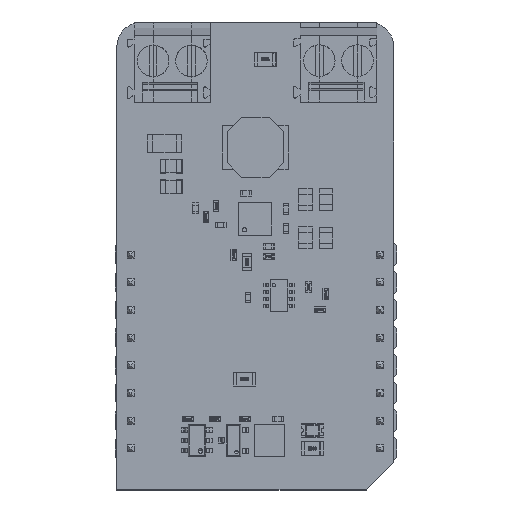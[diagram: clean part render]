
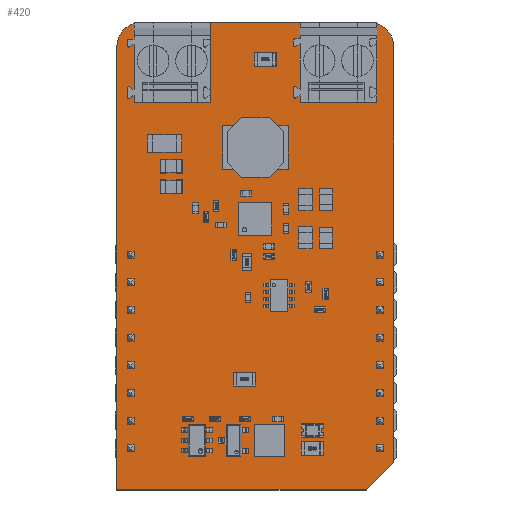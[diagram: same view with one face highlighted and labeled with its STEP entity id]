
A CAD part, top view. The second image highlights one B-rep face of the part: STEP entity #420.
In plain terms, the highlighted planar face has unit normal (0, 0, 1).
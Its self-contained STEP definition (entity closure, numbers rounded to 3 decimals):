
#191 = VERTEX_POINT('',#192);
#192 = CARTESIAN_POINT('',(-1.27,-3.81,0.));
#198 = EDGE_CURVE('',#191,#199,#201,.T.);
#199 = VERTEX_POINT('',#200);
#200 = CARTESIAN_POINT('',(-1.27,36.83,0.));
#201 = LINE('',#202,#203);
#202 = CARTESIAN_POINT('',(-1.27,-3.81,0.));
#203 = VECTOR('',#204,1.);
#204 = DIRECTION('',(0.,1.,0.));
#229 = EDGE_CURVE('',#199,#230,#232,.T.);
#230 = VERTEX_POINT('',#231);
#231 = CARTESIAN_POINT('',(1.016,39.116,0.));
#232 = CIRCLE('',#233,2.288);
#233 = AXIS2_PLACEMENT_3D('',#234,#235,#236);
#234 = CARTESIAN_POINT('',(1.018,36.828,0.));
#235 = DIRECTION('',(0.,0.,-1.));
#236 = DIRECTION('',(-1.,0.001,0.));
#262 = EDGE_CURVE('',#230,#263,#265,.T.);
#263 = VERTEX_POINT('',#264);
#264 = CARTESIAN_POINT('',(21.844,39.116,0.));
#265 = LINE('',#266,#267);
#266 = CARTESIAN_POINT('',(1.016,39.116,0.));
#267 = VECTOR('',#268,1.);
#268 = DIRECTION('',(1.,0.,0.));
#293 = EDGE_CURVE('',#263,#294,#296,.T.);
#294 = VERTEX_POINT('',#295);
#295 = CARTESIAN_POINT('',(24.13,36.83,0.));
#296 = CIRCLE('',#297,2.288);
#297 = AXIS2_PLACEMENT_3D('',#298,#299,#300);
#298 = CARTESIAN_POINT('',(21.842,36.828,0.));
#299 = DIRECTION('',(0.,0.,-1.));
#300 = DIRECTION('',(0.001,1.,0.));
#326 = EDGE_CURVE('',#294,#327,#329,.T.);
#327 = VERTEX_POINT('',#328);
#328 = CARTESIAN_POINT('',(24.13,-1.27,0.));
#329 = LINE('',#330,#331);
#330 = CARTESIAN_POINT('',(24.13,36.83,0.));
#331 = VECTOR('',#332,1.);
#332 = DIRECTION('',(0.,-1.,0.));
#357 = EDGE_CURVE('',#327,#358,#360,.T.);
#358 = VERTEX_POINT('',#359);
#359 = CARTESIAN_POINT('',(21.59,-3.81,0.));
#360 = LINE('',#361,#362);
#361 = CARTESIAN_POINT('',(24.13,-1.27,0.));
#362 = VECTOR('',#363,1.);
#363 = DIRECTION('',(-0.707,-0.707,0.));
#388 = EDGE_CURVE('',#358,#191,#389,.T.);
#389 = LINE('',#390,#391);
#390 = CARTESIAN_POINT('',(21.59,-3.81,0.));
#391 = VECTOR('',#392,1.);
#392 = DIRECTION('',(-1.,0.,0.));
#420 = ADVANCED_FACE('',(#421),#430,.T.);
#421 = FACE_BOUND('',#422,.F.);
#422 = EDGE_LOOP('',(#423,#424,#425,#426,#427,#428,#429));
#423 = ORIENTED_EDGE('',*,*,#198,.T.);
#424 = ORIENTED_EDGE('',*,*,#229,.T.);
#425 = ORIENTED_EDGE('',*,*,#262,.T.);
#426 = ORIENTED_EDGE('',*,*,#293,.T.);
#427 = ORIENTED_EDGE('',*,*,#326,.T.);
#428 = ORIENTED_EDGE('',*,*,#357,.T.);
#429 = ORIENTED_EDGE('',*,*,#388,.T.);
#430 = PLANE('',#431);
#431 = AXIS2_PLACEMENT_3D('',#432,#433,#434);
#432 = CARTESIAN_POINT('',(-1.27,-3.81,0.));
#433 = DIRECTION('',(0.,0.,1.));
#434 = DIRECTION('',(1.,0.,0.));
